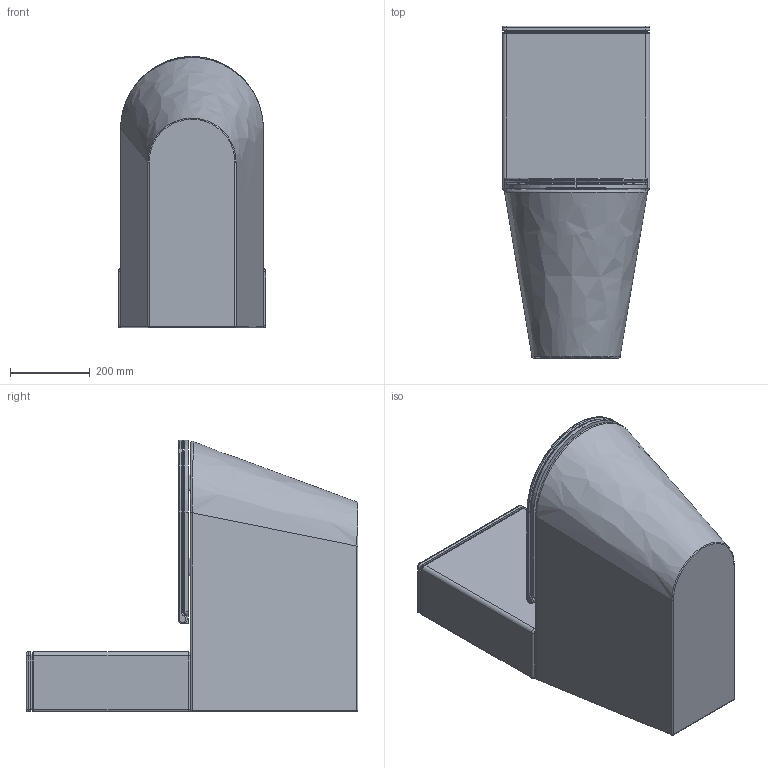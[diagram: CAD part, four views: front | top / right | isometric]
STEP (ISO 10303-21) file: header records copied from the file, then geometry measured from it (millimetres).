
FILE_DESCRIPTION (( 'STEP AP203' ), '1' );
FILE_NAME ('FMVCMPE00000.STEP', '2019-01-28T14:02:13', ( '' ), ( '' ), 'SwSTEP 2.0', 'SolidWorks 2019', '' );
FILE_SCHEMA (( 'CONFIG_CONTROL_DESIGN' ));
Length unit declared in the file: millimetre
Products named in the file (6): FORMA coperchiocassettaMBL; FORMA WCMBL; FORMA CASSETTAMBL; FORMA SEDILE; FMVCMPE00000; Assieme FORMA cassettaMBL
Assembly tree (5 placements, depth 3):
  FMVCMPE00000
    FORMA WCMBL
    FORMA SEDILE
    Assieme FORMA cassettaMBL
      FORMA CASSETTAMBL
      FORMA coperchiocassettaMBL
Bounding box: 370 x 832 x 680.73 mm (x, y, z)
Volume: 71707580.7 mm3; surface area: 2684229.3 mm2
Topology: 4 solids, 4 shells, 241 faces, 563 edges, 330 vertices
Faces by surface type: cylinder 99, plane 67, torus 37, bspline 20, sphere 14, cone 4
Entity records: 9176 total; most frequent: CARTESIAN_POINT 3107, DIRECTION 1221, ORIENTED_EDGE 1106, EDGE_CURVE 553, AXIS2_PLACEMENT_3D 492, VERTEX_POINT 330, CIRCLE 262, EDGE_LOOP 259
